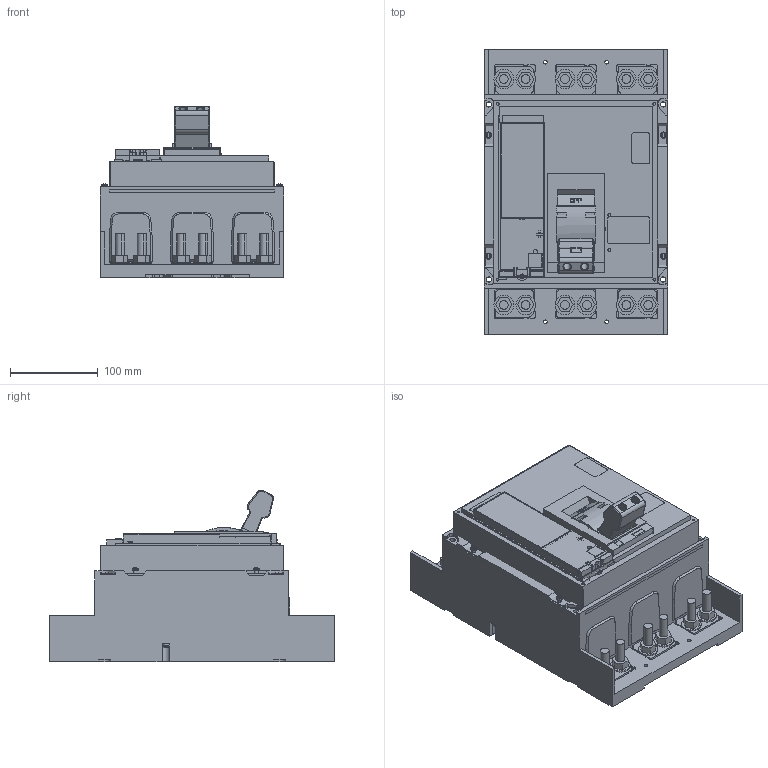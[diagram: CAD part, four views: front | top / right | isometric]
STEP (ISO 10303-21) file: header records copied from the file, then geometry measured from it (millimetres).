
FILE_DESCRIPTION((''),'2;1');
FILE_NAME('1649233342921_ASM','2022-04-06T13:52:47',('SESA621925'),('Schneider-Electric'),'CREO PARAMETRIC BY PTC INC, 2019471','CREO PARAMETRIC BY PTC INC, 2019471','');
FILE_SCHEMA(('AP242_MANAGED_MODEL_BASED_3D_ENGINEERING_MIM_LF { 1 0 10303 442 1 1 4 }'));
Products named in the file (12): EMPTYNODE_1649233343066_ASM; C063N320FM; C063N320FM-3D_ASM; COVER-ASSY-C063N320FM_C_1; COVER-ASSY-C063N320FM-3D_ASM; HANDLE-ASSY-C063N320FM; HANDLE-ASSY-C063N320FM-3D_ASM; 35053; 0444320800; 35053_ASM; 35053-3D_ASM; 1649233342921_ASM
Assembly tree (11 placements, depth 4):
  1649233342921_ASM
    EMPTYNODE_1649233343066_ASM
    C063N320FM-3D_ASM
      C063N320FM
    COVER-ASSY-C063N320FM-3D_ASM
      COVER-ASSY-C063N320FM_C_1
    HANDLE-ASSY-C063N320FM-3D_ASM
      HANDLE-ASSY-C063N320FM
    35053-3D_ASM
      35053_ASM
        35053
        0444320800
Bounding box: 210 x 326.53 x 196.18 mm (x, y, z)
Volume: 5437119.9 mm3; surface area: 553357.1 mm2
Topology: 9 solids, 11 shells, 2060 faces, 5683 edges, 3768 vertices
Faces by surface type: plane 1475, cylinder 459, bspline 42, torus 38, extrusion 26, cone 20
Entity records: 94664 total; most frequent: CARTESIAN_POINT 14969, ORIENTED_EDGE 11310, DIRECTION 10654, PRESENTATION_STYLE_ASSIGNMENT 6379, STYLED_ITEM 5718, CURVE_STYLE 5694, EDGE_CURVE 5655, VECTOR 4272
